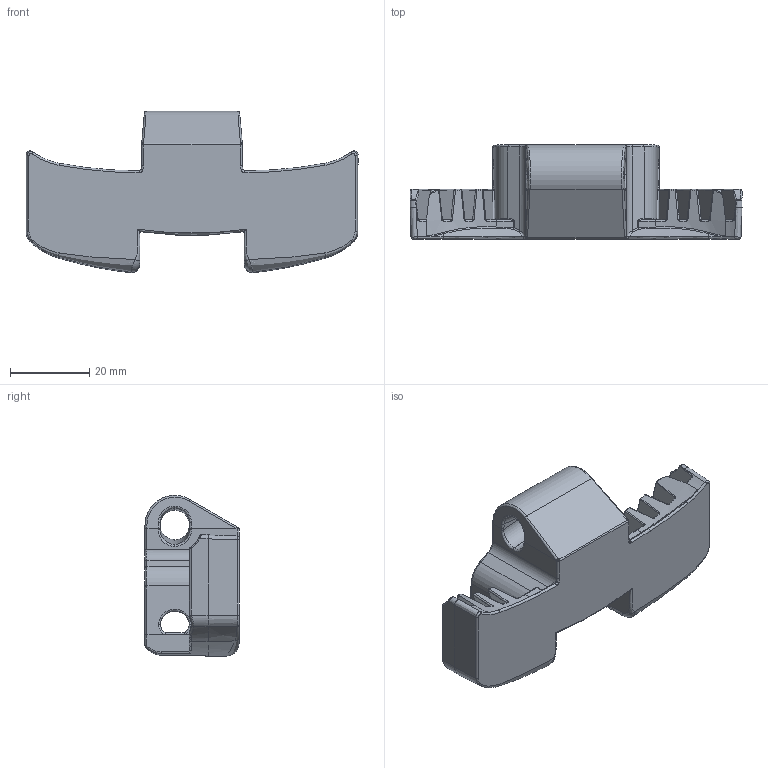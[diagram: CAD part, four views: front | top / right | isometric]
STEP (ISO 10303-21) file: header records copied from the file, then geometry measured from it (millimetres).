
FILE_DESCRIPTION((''),'2;1');
FILE_NAME('P1646','2024-05-23T08:59:52',('joakim.vodder'),(''),'CREO PARAMETRIC BY PTC INC, 2023134','CREO PARAMETRIC BY PTC INC, 2023134','');
FILE_SCHEMA(('AUTOMOTIVE_DESIGN { 1 0 10303 214 1 1 1 1 }'));
Products named in the file (1): P1646
Bounding box: 83.7 x 23.7 x 40.7 mm (x, y, z)
Volume: 24890.8 mm3; surface area: 12257.3 mm2
Topology: 1 solids, 1 shells, 1005 faces, 2561 edges, 1580 vertices
Faces by surface type: plane 514, cylinder 205, bspline 168, torus 55, sphere 42, cone 19, extrusion 2
Entity records: 49996 total; most frequent: CARTESIAN_POINT 19309, ORIENTED_EDGE 5118, DIRECTION 4266, PRESENTATION_STYLE_ASSIGNMENT 2560, STYLED_ITEM 2560, CURVE_STYLE 2559, EDGE_CURVE 2559, VECTOR 1614
